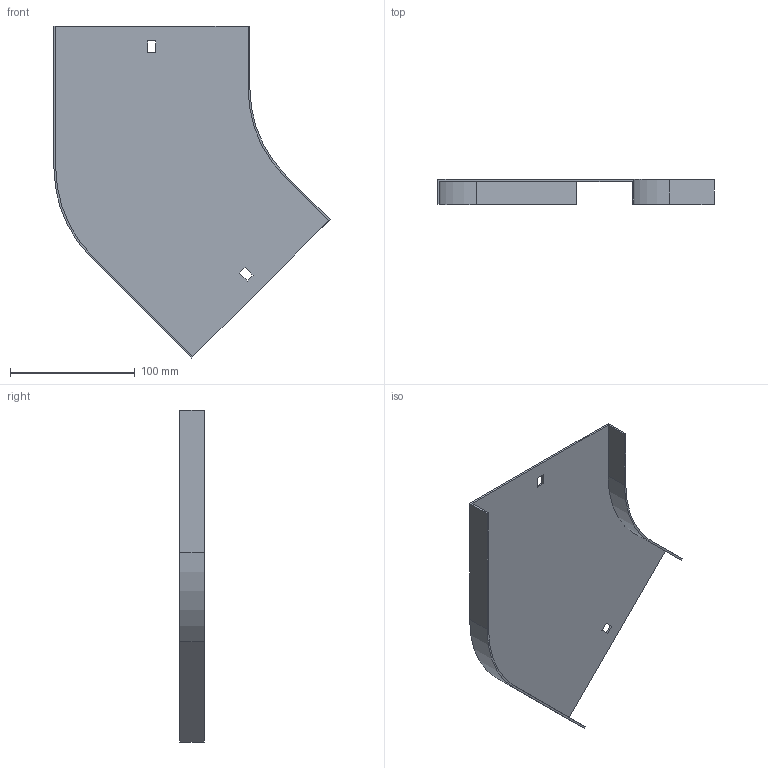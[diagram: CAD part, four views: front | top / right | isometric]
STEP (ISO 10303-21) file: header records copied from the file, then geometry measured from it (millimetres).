
FILE_DESCRIPTION (( 'STEP AP214' ), '1' );
FILE_NAME ('11N1R150.step', '2025-02-21T09:20:59', ( '' ), ( '' ), 'SwSTEP 2.0', 'SolidWorks 2023', '' );
FILE_SCHEMA (( 'AUTOMOTIVE_DESIGN' ));
Length unit declared in the file: millimetre
Products named in the file (1): 11N1R150
Bounding box: 221.21 x 20 x 266.02 mm (x, y, z)
Volume: 71336.1 mm3; surface area: 96516.8 mm2
Topology: 1 solids, 1 shells, 26 faces, 72 edges, 48 vertices
Faces by surface type: plane 22, cylinder 4
Entity records: 855 total; most frequent: CARTESIAN_POINT 147, ORIENTED_EDGE 144, DIRECTION 134, EDGE_CURVE 72, LINE 64, VECTOR 64, VERTEX_POINT 48, AXIS2_PLACEMENT_3D 35
